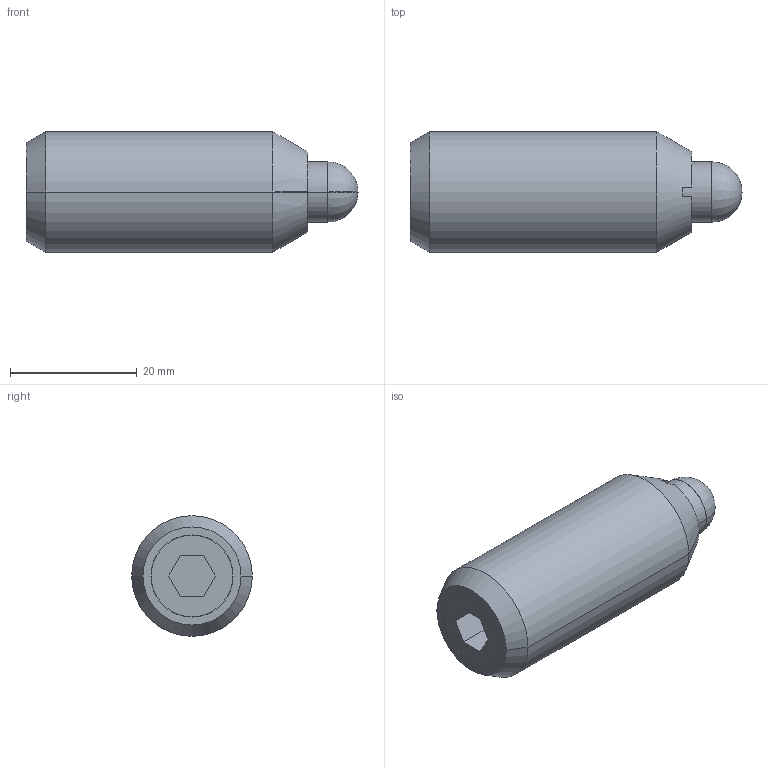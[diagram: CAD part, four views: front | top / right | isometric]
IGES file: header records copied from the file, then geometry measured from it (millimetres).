
Start section:  PTC IGES file: s64-3d.igs
Global section: file name: s64-3d.igs; native system: Pro/ENGINEER by Parametric Technology Corporation; preprocessor: 2002350; author: chant; organization: Unknown; date: 061031.144008; units: inch
Bounding box: 52.4 x 19.05 x 19.05 mm (x, y, z)
Surface area: 3629.3 mm2 (no closed solid volume)
Topology: 0 solids, 0 shells, 32 faces, 222 edges, 280 vertices
Faces by surface type: bspline 16, revolution 16
